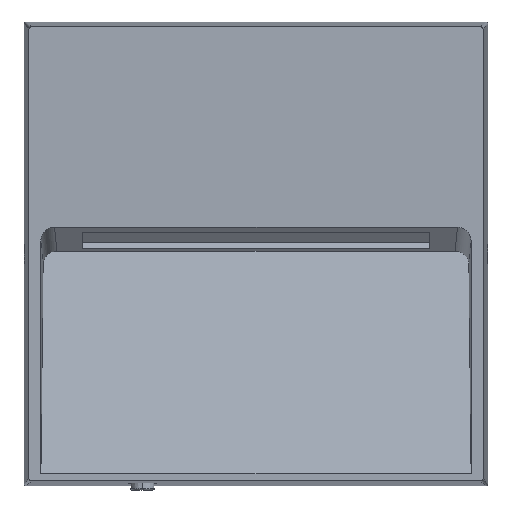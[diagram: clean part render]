
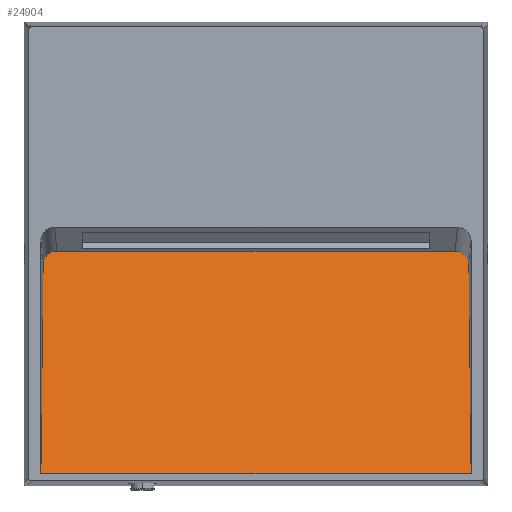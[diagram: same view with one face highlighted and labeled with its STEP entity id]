
A CAD part, front view. The second image highlights one B-rep face of the part: STEP entity #24904.
In plain terms, the highlighted planar face has unit normal (0, -0.958, 0.286).
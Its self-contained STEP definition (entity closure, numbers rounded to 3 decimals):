
#818 = CARTESIAN_POINT ( 'NONE',  ( 92.915, 263.808, -20.419 ) ) ;
#1593 = CARTESIAN_POINT ( 'NONE',  ( 96.382, 249.481, -68.382 ) ) ;
#1623 = EDGE_CURVE ( 'NONE', #7925, #10815, #10615, .T. ) ;
#2374 = ORIENTED_EDGE ( 'NONE', *, *, #28230, .F. ) ;
#4425 = LINE ( 'NONE', #18323, #26603 ) ;
#4579 = CARTESIAN_POINT ( 'NONE',  ( 3.618, 249.481, -68.382 ) ) ;
#5236 = VERTEX_POINT ( 'NONE', #13744 ) ;
#5913 = DIRECTION ( 'NONE',  ( 0.01, -0.286, -0.958 ) ) ;
#6633 = CARTESIAN_POINT ( 'NONE',  ( 5.343, 263.808, -20.419 ) ) ;
#7925 = VERTEX_POINT ( 'NONE', #19167 ) ;
#8355 = DIRECTION ( 'NONE',  ( -1., 0., 0. ) ) ;
#8604 = CARTESIAN_POINT ( 'NONE',  ( 4.089, 262.958, -23.263 ) ) ;
#9671 = VECTOR ( 'NONE', #15908, 1000. ) ;
#9885 = ORIENTED_EDGE ( 'NONE', *, *, #26544, .F. ) ;
#10003 = LINE ( 'NONE', #29356, #29585 ) ;
#10062 = CARTESIAN_POINT ( 'NONE',  ( 95.912, 262.958, -23.263 ) ) ;
#10183 = FACE_OUTER_BOUND ( 'NONE', #13805, .T. ) ;
#10615 = LINE ( 'NONE', #10777, #12451 ) ;
#10777 = CARTESIAN_POINT ( 'NONE',  ( 92.915, 263.808, -20.419 ) ) ;
#10815 = VERTEX_POINT ( 'NONE', #13979 ) ;
#11621 = CARTESIAN_POINT ( 'NONE',  ( 3.618, 249.481, -68.382 ) ) ;
#12451 = VECTOR ( 'NONE', #8355, 1000. ) ;
#13744 = CARTESIAN_POINT ( 'NONE',  ( 4.089, 262.958, -23.263 ) ) ;
#13805 = EDGE_LOOP ( 'NONE', ( #22891, #27738, #20544, #15720, #9885, #2374 ) ) ;
#13979 = CARTESIAN_POINT ( 'NONE',  ( 7.086, 263.808, -20.419 ) ) ;
#14856 = CARTESIAN_POINT ( 'NONE',  ( 40., 249.465, -68.435 ) ) ;
#15005 = DIRECTION ( 'NONE',  ( 0., 0.958, -0.286 ) ) ;
#15720 = ORIENTED_EDGE ( 'NONE', *, *, #18465, .T. ) ;
#15816 = CARTESIAN_POINT ( 'NONE',  ( 95.912, 262.958, -23.263 ) ) ;
#15908 = DIRECTION ( 'NONE',  ( 1., 0., 0. ) ) ;
#16895 =( BOUNDED_CURVE ( )  B_SPLINE_CURVE ( 3, ( #8604, #20409, #6633, #17831 ),
 .UNSPECIFIED., .F., .F. ) 
 B_SPLINE_CURVE_WITH_KNOTS ( ( 4, 4 ),
 ( 2.199, 3.759 ),
 .UNSPECIFIED. ) 
 CURVE ( )  GEOMETRIC_REPRESENTATION_ITEM ( )  RATIONAL_B_SPLINE_CURVE ( ( 1., 0.807, 0.807, 1. ) ) 
 REPRESENTATION_ITEM ( '' )  );
#17107 = VERTEX_POINT ( 'NONE', #1593 ) ;
#17178 = CARTESIAN_POINT ( 'NONE',  ( 95.894, 263.457, -21.593 ) ) ;
#17831 = CARTESIAN_POINT ( 'NONE',  ( 7.086, 263.808, -20.419 ) ) ;
#18323 = CARTESIAN_POINT ( 'NONE',  ( 4.089, 262.958, -23.263 ) ) ;
#18465 = EDGE_CURVE ( 'NONE', #25552, #17107, #25319, .T. ) ;
#18490 = EDGE_CURVE ( 'NONE', #5236, #25552, #4425, .T. ) ;
#19010 =( BOUNDED_CURVE ( )  B_SPLINE_CURVE ( 3, ( #818, #23995, #17178, #10062 ),
 .UNSPECIFIED., .F., .F. ) 
 B_SPLINE_CURVE_WITH_KNOTS ( ( 4, 4 ),
 ( 2.525, 4.084 ),
 .UNSPECIFIED. ) 
 CURVE ( )  GEOMETRIC_REPRESENTATION_ITEM ( )  RATIONAL_B_SPLINE_CURVE ( ( 1., 0.807, 0.807, 1. ) ) 
 REPRESENTATION_ITEM ( '' )  );
#19106 = PLANE ( 'NONE',  #25149 ) ;
#19167 = CARTESIAN_POINT ( 'NONE',  ( 92.915, 263.808, -20.419 ) ) ;
#20409 = CARTESIAN_POINT ( 'NONE',  ( 4.106, 263.457, -21.593 ) ) ;
#20544 = ORIENTED_EDGE ( 'NONE', *, *, #18490, .T. ) ;
#22054 = EDGE_CURVE ( 'NONE', #5236, #10815, #16895, .T. ) ;
#22734 = DIRECTION ( 'NONE',  ( -0.01, -0.286, -0.958 ) ) ;
#22891 = ORIENTED_EDGE ( 'NONE', *, *, #1623, .T. ) ;
#23995 = CARTESIAN_POINT ( 'NONE',  ( 94.657, 263.808, -20.419 ) ) ;
#24904 = ADVANCED_FACE ( 'NONE', ( #10183 ), #19106, .F. ) ;
#25149 = AXIS2_PLACEMENT_3D ( 'NONE', #14856, #15005, #28662 ) ;
#25319 = LINE ( 'NONE', #4579, #9671 ) ;
#25552 = VERTEX_POINT ( 'NONE', #11621 ) ;
#26544 = EDGE_CURVE ( 'NONE', #27692, #17107, #10003, .T. ) ;
#26603 = VECTOR ( 'NONE', #22734, 1000. ) ;
#27692 = VERTEX_POINT ( 'NONE', #15816 ) ;
#27738 = ORIENTED_EDGE ( 'NONE', *, *, #22054, .F. ) ;
#28230 = EDGE_CURVE ( 'NONE', #7925, #27692, #19010, .T. ) ;
#28662 = DIRECTION ( 'NONE',  ( -1., 0., 0. ) ) ;
#29356 = CARTESIAN_POINT ( 'NONE',  ( 95.912, 262.958, -23.263 ) ) ;
#29585 = VECTOR ( 'NONE', #5913, 1000. ) ;
